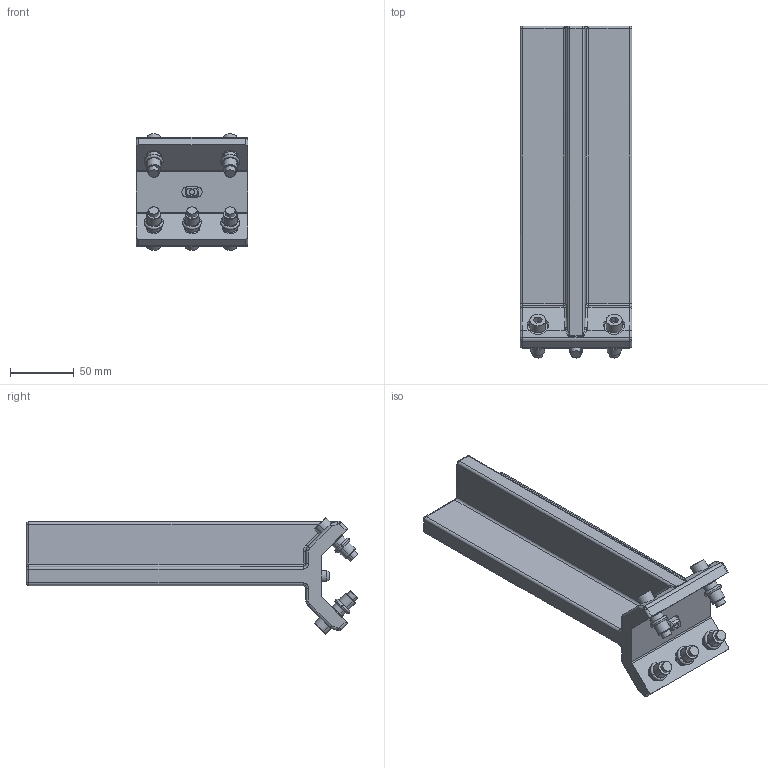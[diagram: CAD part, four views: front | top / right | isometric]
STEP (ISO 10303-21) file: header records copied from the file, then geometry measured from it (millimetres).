
FILE_DESCRIPTION(('STEP AP214'),'1');
FILE_NAME('EGT232_1698047_SEITENANB_MITTIG_SW80.CATPart.stp','2015-09-14T13:14:26',('3D-Tool'),(' '),'Spatial InterOp 3D',' ',' ');
FILE_SCHEMA(('automotive_design'));
Length unit declared in the file: millimetre
Products named in the file (12): EGT232_1698047_SEITENANB_MITTIG_SW80|5252143.1_Seitenanbindung mittig SW80|5252143.1_Seitenanbindung mittig SW80; EGT232_1698047_SEITENANB_MITTIG_SW80|Schraube_M8x30.1_Hauptkörper|Schraube_M8x30.1_Hauptkörper; EGT232_1698047_SEITENANB_MITTIG_SW80|Schraube_M8x30.2_Hauptkörper|Schraube_M8x30.2_Hauptkörper; EGT232_1698047_SEITENANB_MITTIG_SW80|Schraube_M8x30.3_Hauptkörper|Schraube_M8x30.3_Hauptkörper; EGT232_1698047_SEITENANB_MITTIG_SW80|Schraube_M8x30.4_Hauptkörper|Schraube_M8x30.4_Hauptkörper; EGT232_1698047_SEITENANB_MITTIG_SW80|Schraube_M8x30.5_Hauptkörper|Schraube_M8x30.5_Hauptkörper; EGT232_1698047_SEITENANB_MITTIG_SW80|Eurosert_M8.1_Hauptkörper|Eurosert_M8.1_Hauptkörper; EGT232_1698047_SEITENANB_MITTIG_SW80|Eurosert_M8.2_Hauptkörper|Eurosert_M8.2_Hauptkörper; EGT232_1698047_SEITENANB_MITTIG_SW80|Eurosert_M8.3_Hauptkörper|Eurosert_M8.3_Hauptkörper; EGT232_1698047_SEITENANB_MITTIG_SW80|Eurosert_M8.4_Hauptkörper|Eurosert_M8.4_Hauptkörper; EGT232_1698047_SEITENANB_MITTIG_SW80|Eurosert_M8.5_Hauptkörper|Eurosert_M8.5_Hauptkörper; EGT232_1698047_SEITENANB_MITTIG_SW80|5252162.1_Zentrierstift Vario-Handlingsystem|5252162.1_Zentrierstift Vario-Handlingsystem
Bounding box: 88 x 260.83 x 91.57 mm (x, y, z)
Volume: 525903.6 mm3; surface area: 97140.3 mm2
Topology: 12 solids, 12 shells, 343 faces, 873 edges, 571 vertices
Faces by surface type: cylinder 147, plane 112, torus 36, cone 32, sphere 8, bspline 8
Entity records: 13385 total; most frequent: CARTESIAN_POINT 4228, ORIENTED_EDGE 1726, EDGE_CURVE 863, DIRECTION 724, VERTEX_POINT 571, B_SPLINE_CURVE_WITH_KNOTS 398, EDGE_LOOP 392, AXIS2_PLACEMENT_3D 361
